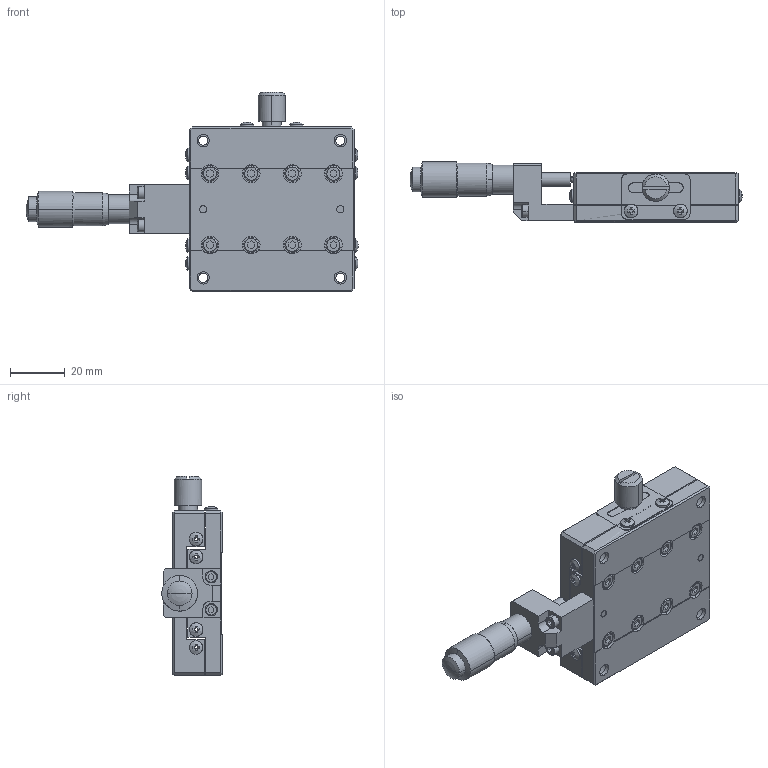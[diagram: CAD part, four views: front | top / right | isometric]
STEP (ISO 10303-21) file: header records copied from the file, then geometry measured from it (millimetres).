
FILE_DESCRIPTION (( 'STEP AP214' ), '1' );
FILE_NAME ('X60-C.STEP', '2022-09-04T02:49:59', ( '' ), ( '' ), 'SwSTEP 2.0', 'SolidWorks 2017', '' );
FILE_SCHEMA (( 'AUTOMOTIVE_DESIGN' ));
Length unit declared in the file: millimetre
Products named in the file (1): X60-C
Bounding box: 121.05 x 22.02 x 72.6 mm (x, y, z)
Surface area: 28621.6 mm2 (no closed solid volume)
Topology: 0 solids, 36 shells, 615 faces, 1687 edges, 1112 vertices
Faces by surface type: plane 349, cylinder 153, cone 63, bspline 48, torus 2
Entity records: 22441 total; most frequent: CARTESIAN_POINT 7387, ORIENTED_EDGE 3032, DIRECTION 2977, EDGE_CURVE 1679, VERTEX_POINT 1112, AXIS2_PLACEMENT_3D 1026, LINE 925, VECTOR 925
